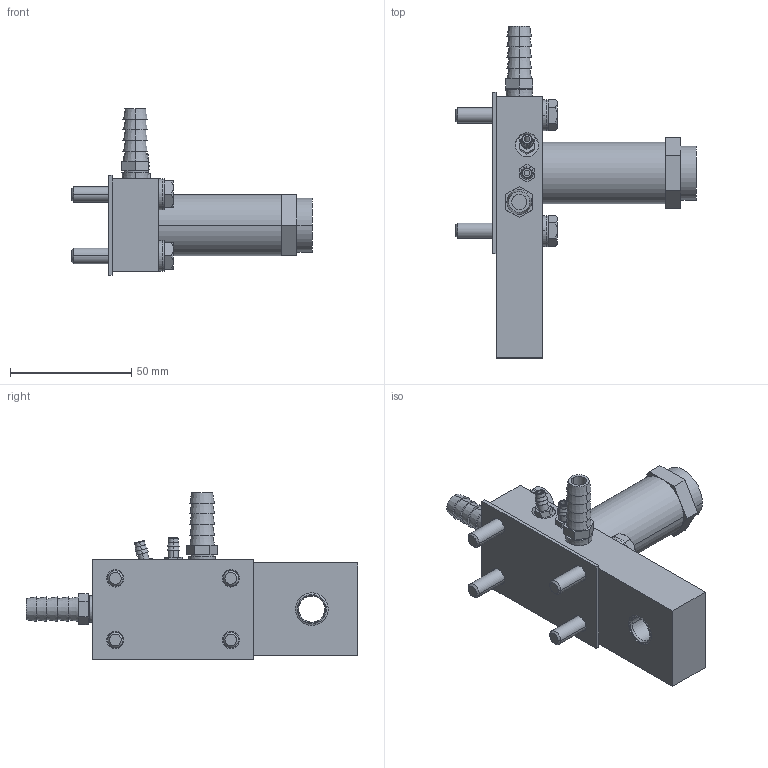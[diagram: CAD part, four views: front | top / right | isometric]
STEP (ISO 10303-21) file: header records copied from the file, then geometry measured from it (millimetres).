
FILE_DESCRIPTION((''),'2;1');
FILE_NAME('XJR2_ASM','2017-08-24T',('jennifer.elliott'),('CenterLine (Windsor) Ltd - Automation Components Division'),'PRO/ENGINEER BY PARAMETRIC TECHNOLOGY CORPORATION, 2015030','PRO/ENGINEER BY PARAMETRIC TECHNOLOGY CORPORATION, 2015030','');
FILE_SCHEMA(('AUTOMOTIVE_DESIGN { 1 0 10303 214 1 1 1 1 }'));
Length unit declared in the file: inch
Products named in the file (23): PRT1327; PRT1328; PRT1329; PRT1330; PRT1331; PRT1332; PRT1333; PRT1334; PRT1335; PRT1336; PRT1337; PRT1338; PRT1339; PRT1340; PRT1341; PRT1342; PRT1343; PRT1344; PRT1345; PRT1346; PRT1347; PRT1348; XJR2_ASM
Assembly tree (22 placements, depth 2):
  XJR2_ASM
    PRT1327
    PRT1328
    PRT1329
    PRT1330
    PRT1331
    PRT1332
    PRT1333
    PRT1334
    PRT1335
    PRT1336
    PRT1337
    PRT1338
    PRT1339
    PRT1340
    PRT1341
    PRT1342
    PRT1343
    PRT1344
    PRT1345
    PRT1346
    PRT1347
    PRT1348
Bounding box: 99.25 x 136.91 x 68.64 mm (x, y, z)
Volume: 118698.3 mm3; surface area: 44009.4 mm2
Topology: 22 solids, 22 shells, 314 faces, 670 edges, 430 vertices
Faces by surface type: plane 136, cylinder 98, cone 72, torus 8
Entity records: 10287 total; most frequent: CARTESIAN_POINT 1825, DIRECTION 1648, ORIENTED_EDGE 1340, AXIS2_PLACEMENT_3D 671, EDGE_CURVE 670, VERTEX_POINT 430, EDGE_LOOP 388, FACE_OUTER_BOUND 314
